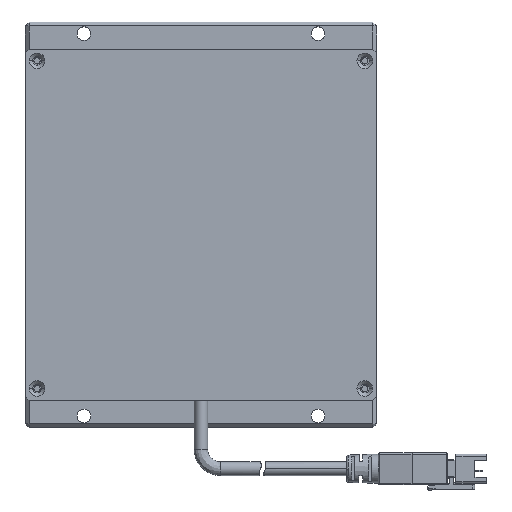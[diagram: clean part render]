
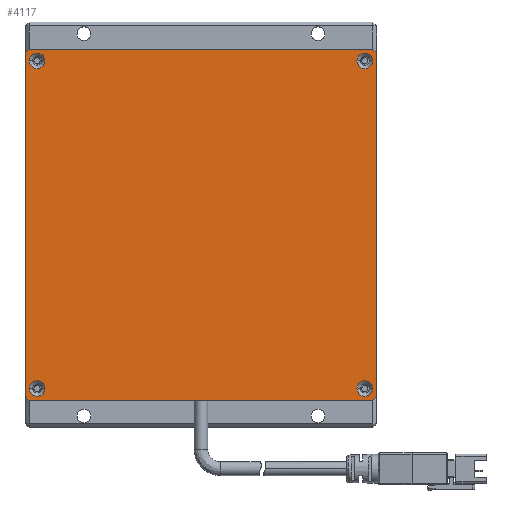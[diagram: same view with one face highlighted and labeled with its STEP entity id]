
A CAD part, top view. The second image highlights one B-rep face of the part: STEP entity #4117.
In plain terms, the highlighted planar face has unit normal (0, 0, 1).
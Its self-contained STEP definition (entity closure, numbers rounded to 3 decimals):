
#9 = LINE ( 'NONE', #5481, #5666 ) ;
#41 = DIRECTION ( 'NONE',  ( -0.707, 0.707, 0. ) ) ;
#54 = CIRCLE ( 'NONE', #8355, 2. ) ;
#69 = CARTESIAN_POINT ( 'NONE',  ( -45., 44., 20. ) ) ;
#347 = VECTOR ( 'NONE', #5973, 1000. ) ;
#432 = ORIENTED_EDGE ( 'NONE', *, *, #6237, .F. ) ;
#453 = DIRECTION ( 'NONE',  ( 1., 0., 0. ) ) ;
#516 = VECTOR ( 'NONE', #8854, 1000. ) ;
#564 = LINE ( 'NONE', #1196, #347 ) ;
#710 = EDGE_CURVE ( 'NONE', #6493, #3660, #5126, .T. ) ;
#743 = EDGE_LOOP ( 'NONE', ( #5694, #4897 ) ) ;
#746 = CARTESIAN_POINT ( 'NONE',  ( 42., 42., 20. ) ) ;
#812 = CARTESIAN_POINT ( 'NONE',  ( -44., -45., 20. ) ) ;
#977 = CARTESIAN_POINT ( 'NONE',  ( 0., 0., 20. ) ) ;
#1014 = DIRECTION ( 'NONE',  ( 0., 0., -1. ) ) ;
#1102 = VERTEX_POINT ( 'NONE', #8191 ) ;
#1124 = CARTESIAN_POINT ( 'NONE',  ( -42., 42., 20. ) ) ;
#1131 = ORIENTED_EDGE ( 'NONE', *, *, #4490, .T. ) ;
#1132 = EDGE_CURVE ( 'NONE', #7157, #3633, #1708, .T. ) ;
#1153 = CARTESIAN_POINT ( 'NONE',  ( -42., -42., 20. ) ) ;
#1171 = EDGE_CURVE ( 'NONE', #5373, #1302, #3188, .T. ) ;
#1180 = DIRECTION ( 'NONE',  ( 1., 0., 0. ) ) ;
#1196 = CARTESIAN_POINT ( 'NONE',  ( -45., -45., 20. ) ) ;
#1302 = VERTEX_POINT ( 'NONE', #1717 ) ;
#1398 = VERTEX_POINT ( 'NONE', #6584 ) ;
#1405 = CIRCLE ( 'NONE', #1788, 2. ) ;
#1418 = EDGE_CURVE ( 'NONE', #1302, #5373, #6418, .T. ) ;
#1487 = AXIS2_PLACEMENT_3D ( 'NONE', #746, #5525, #6289 ) ;
#1556 = LINE ( 'NONE', #6305, #2505 ) ;
#1598 = CARTESIAN_POINT ( 'NONE',  ( -44., -45., 20. ) ) ;
#1648 = CARTESIAN_POINT ( 'NONE',  ( 44., -42., 20. ) ) ;
#1682 = PLANE ( 'NONE',  #3145 ) ;
#1708 = LINE ( 'NONE', #6974, #1915 ) ;
#1717 = CARTESIAN_POINT ( 'NONE',  ( 44., 42., 20. ) ) ;
#1788 = AXIS2_PLACEMENT_3D ( 'NONE', #1153, #5229, #1180 ) ;
#1822 = DIRECTION ( 'NONE',  ( 1., 0., 0. ) ) ;
#1848 = DIRECTION ( 'NONE',  ( 0., 0., 1. ) ) ;
#1889 = VERTEX_POINT ( 'NONE', #6243 ) ;
#1915 = VECTOR ( 'NONE', #4200, 1000. ) ;
#2139 = FACE_BOUND ( 'NONE', #4979, .T. ) ;
#2261 = VERTEX_POINT ( 'NONE', #6089 ) ;
#2305 = LINE ( 'NONE', #3857, #4857 ) ;
#2485 = DIRECTION ( 'NONE',  ( 0., 0., 1. ) ) ;
#2505 = VECTOR ( 'NONE', #4129, 1000. ) ;
#2597 = ORIENTED_EDGE ( 'NONE', *, *, #4262, .F. ) ;
#2681 = AXIS2_PLACEMENT_3D ( 'NONE', #3994, #2485, #4538 ) ;
#2758 = ORIENTED_EDGE ( 'NONE', *, *, #7548, .T. ) ;
#2912 = EDGE_CURVE ( 'NONE', #3633, #3563, #7134, .T. ) ;
#2972 = CARTESIAN_POINT ( 'NONE',  ( 42., -42., 20. ) ) ;
#3033 = EDGE_CURVE ( 'NONE', #1889, #7144, #5948, .T. ) ;
#3056 = ORIENTED_EDGE ( 'NONE', *, *, #1171, .F. ) ;
#3145 = AXIS2_PLACEMENT_3D ( 'NONE', #977, #1014, #8388 ) ;
#3188 = CIRCLE ( 'NONE', #1487, 2. ) ;
#3294 = CARTESIAN_POINT ( 'NONE',  ( -45., 44., 20. ) ) ;
#3451 = VERTEX_POINT ( 'NONE', #6853 ) ;
#3563 = VERTEX_POINT ( 'NONE', #69 ) ;
#3633 = VERTEX_POINT ( 'NONE', #6403 ) ;
#3660 = VERTEX_POINT ( 'NONE', #1648 ) ;
#3672 = AXIS2_PLACEMENT_3D ( 'NONE', #3696, #6802, #5471 ) ;
#3696 = CARTESIAN_POINT ( 'NONE',  ( -42., 42., 20. ) ) ;
#3718 = ORIENTED_EDGE ( 'NONE', *, *, #1132, .T. ) ;
#3777 = ORIENTED_EDGE ( 'NONE', *, *, #4036, .T. ) ;
#3857 = CARTESIAN_POINT ( 'NONE',  ( 45., -44., 20. ) ) ;
#3860 = DIRECTION ( 'NONE',  ( -0.707, -0.707, 0. ) ) ;
#3994 = CARTESIAN_POINT ( 'NONE',  ( 42., 42., 20. ) ) ;
#4036 = EDGE_CURVE ( 'NONE', #7144, #8508, #564, .T. ) ;
#4117 = ADVANCED_FACE ( 'NONE', ( #7821, #6330, #2139, #5557, #8665 ), #1682, .F. ) ;
#4129 = DIRECTION ( 'NONE',  ( 0., 1., 0. ) ) ;
#4165 = LINE ( 'NONE', #6171, #8430 ) ;
#4200 = DIRECTION ( 'NONE',  ( -1., 0., 0. ) ) ;
#4262 = EDGE_CURVE ( 'NONE', #1102, #2261, #1405, .T. ) ;
#4301 = EDGE_CURVE ( 'NONE', #7841, #6705, #6436, .T. ) ;
#4328 = DIRECTION ( 'NONE',  ( 1., 0., 0. ) ) ;
#4490 = EDGE_CURVE ( 'NONE', #3563, #1889, #9, .T. ) ;
#4496 = DIRECTION ( 'NONE',  ( 0.707, 0.707, 0. ) ) ;
#4518 = DIRECTION ( 'NONE',  ( 0., 0., 1. ) ) ;
#4538 = DIRECTION ( 'NONE',  ( 1., 0., 0. ) ) ;
#4857 = VECTOR ( 'NONE', #4496, 1000. ) ;
#4897 = ORIENTED_EDGE ( 'NONE', *, *, #5610, .F. ) ;
#4979 = EDGE_LOOP ( 'NONE', ( #6641, #3056 ) ) ;
#5085 = CARTESIAN_POINT ( 'NONE',  ( 42., -42., 20. ) ) ;
#5126 = CIRCLE ( 'NONE', #6871, 2. ) ;
#5137 = ORIENTED_EDGE ( 'NONE', *, *, #2912, .T. ) ;
#5229 = DIRECTION ( 'NONE',  ( 0., 0., 1. ) ) ;
#5366 = EDGE_CURVE ( 'NONE', #1398, #7157, #4165, .T. ) ;
#5373 = VERTEX_POINT ( 'NONE', #7470 ) ;
#5381 = EDGE_LOOP ( 'NONE', ( #2597, #432 ) ) ;
#5409 = VECTOR ( 'NONE', #3860, 1000. ) ;
#5421 = CIRCLE ( 'NONE', #3672, 2. ) ;
#5471 = DIRECTION ( 'NONE',  ( 1., 0., 0. ) ) ;
#5481 = CARTESIAN_POINT ( 'NONE',  ( -45., -45., 20. ) ) ;
#5525 = DIRECTION ( 'NONE',  ( 0., 0., 1. ) ) ;
#5557 = FACE_OUTER_BOUND ( 'NONE', #6812, .T. ) ;
#5576 = ORIENTED_EDGE ( 'NONE', *, *, #3033, .T. ) ;
#5610 = EDGE_CURVE ( 'NONE', #6705, #7841, #5421, .T. ) ;
#5617 = CARTESIAN_POINT ( 'NONE',  ( -44., 42., 20. ) ) ;
#5666 = VECTOR ( 'NONE', #6162, 1000. ) ;
#5694 = ORIENTED_EDGE ( 'NONE', *, *, #4301, .F. ) ;
#5842 = DIRECTION ( 'NONE',  ( 0., 0., 1. ) ) ;
#5948 = LINE ( 'NONE', #812, #516 ) ;
#5973 = DIRECTION ( 'NONE',  ( 1., 0., 0. ) ) ;
#6089 = CARTESIAN_POINT ( 'NONE',  ( -44., -42., 20. ) ) ;
#6162 = DIRECTION ( 'NONE',  ( 0., -1., 0. ) ) ;
#6171 = CARTESIAN_POINT ( 'NONE',  ( 44., 45., 20. ) ) ;
#6199 = CARTESIAN_POINT ( 'NONE',  ( 40., -42., 20. ) ) ;
#6237 = EDGE_CURVE ( 'NONE', #2261, #1102, #7447, .T. ) ;
#6243 = CARTESIAN_POINT ( 'NONE',  ( -45., -44., 20. ) ) ;
#6289 = DIRECTION ( 'NONE',  ( 1., 0., 0. ) ) ;
#6305 = CARTESIAN_POINT ( 'NONE',  ( 45., -45., 20. ) ) ;
#6330 = FACE_BOUND ( 'NONE', #7106, .T. ) ;
#6403 = CARTESIAN_POINT ( 'NONE',  ( -44., 45., 20. ) ) ;
#6418 = CIRCLE ( 'NONE', #2681, 2. ) ;
#6436 = CIRCLE ( 'NONE', #6834, 2. ) ;
#6493 = VERTEX_POINT ( 'NONE', #6199 ) ;
#6581 = AXIS2_PLACEMENT_3D ( 'NONE', #8642, #4518, #453 ) ;
#6584 = CARTESIAN_POINT ( 'NONE',  ( 45., 44., 20. ) ) ;
#6624 = CARTESIAN_POINT ( 'NONE',  ( -40., 42., 20. ) ) ;
#6641 = ORIENTED_EDGE ( 'NONE', *, *, #1418, .F. ) ;
#6705 = VERTEX_POINT ( 'NONE', #5617 ) ;
#6771 = ORIENTED_EDGE ( 'NONE', *, *, #5366, .T. ) ;
#6802 = DIRECTION ( 'NONE',  ( 0., 0., 1. ) ) ;
#6812 = EDGE_LOOP ( 'NONE', ( #1131, #5576, #3777, #8135, #2758, #6771, #3718, #5137 ) ) ;
#6834 = AXIS2_PLACEMENT_3D ( 'NONE', #1124, #1848, #1822 ) ;
#6853 = CARTESIAN_POINT ( 'NONE',  ( 45., -44., 20. ) ) ;
#6871 = AXIS2_PLACEMENT_3D ( 'NONE', #5085, #5842, #8528 ) ;
#6944 = ORIENTED_EDGE ( 'NONE', *, *, #7999, .F. ) ;
#6974 = CARTESIAN_POINT ( 'NONE',  ( -45., 45., 20. ) ) ;
#7106 = EDGE_LOOP ( 'NONE', ( #6944, #7623 ) ) ;
#7134 = LINE ( 'NONE', #3294, #5409 ) ;
#7144 = VERTEX_POINT ( 'NONE', #1598 ) ;
#7157 = VERTEX_POINT ( 'NONE', #7687 ) ;
#7447 = CIRCLE ( 'NONE', #6581, 2. ) ;
#7470 = CARTESIAN_POINT ( 'NONE',  ( 40., 42., 20. ) ) ;
#7548 = EDGE_CURVE ( 'NONE', #3451, #1398, #1556, .T. ) ;
#7623 = ORIENTED_EDGE ( 'NONE', *, *, #710, .F. ) ;
#7687 = CARTESIAN_POINT ( 'NONE',  ( 44., 45., 20. ) ) ;
#7821 = FACE_BOUND ( 'NONE', #5381, .T. ) ;
#7841 = VERTEX_POINT ( 'NONE', #6624 ) ;
#7848 = EDGE_CURVE ( 'NONE', #8508, #3451, #2305, .T. ) ;
#7999 = EDGE_CURVE ( 'NONE', #3660, #6493, #54, .T. ) ;
#8135 = ORIENTED_EDGE ( 'NONE', *, *, #7848, .T. ) ;
#8191 = CARTESIAN_POINT ( 'NONE',  ( -40., -42., 20. ) ) ;
#8355 = AXIS2_PLACEMENT_3D ( 'NONE', #2972, #8360, #4328 ) ;
#8360 = DIRECTION ( 'NONE',  ( 0., 0., 1. ) ) ;
#8388 = DIRECTION ( 'NONE',  ( -1., 0., 0. ) ) ;
#8430 = VECTOR ( 'NONE', #41, 1000. ) ;
#8508 = VERTEX_POINT ( 'NONE', #8694 ) ;
#8528 = DIRECTION ( 'NONE',  ( 1., 0., 0. ) ) ;
#8642 = CARTESIAN_POINT ( 'NONE',  ( -42., -42., 20. ) ) ;
#8665 = FACE_BOUND ( 'NONE', #743, .T. ) ;
#8694 = CARTESIAN_POINT ( 'NONE',  ( 44., -45., 20. ) ) ;
#8854 = DIRECTION ( 'NONE',  ( 0.707, -0.707, 0. ) ) ;
